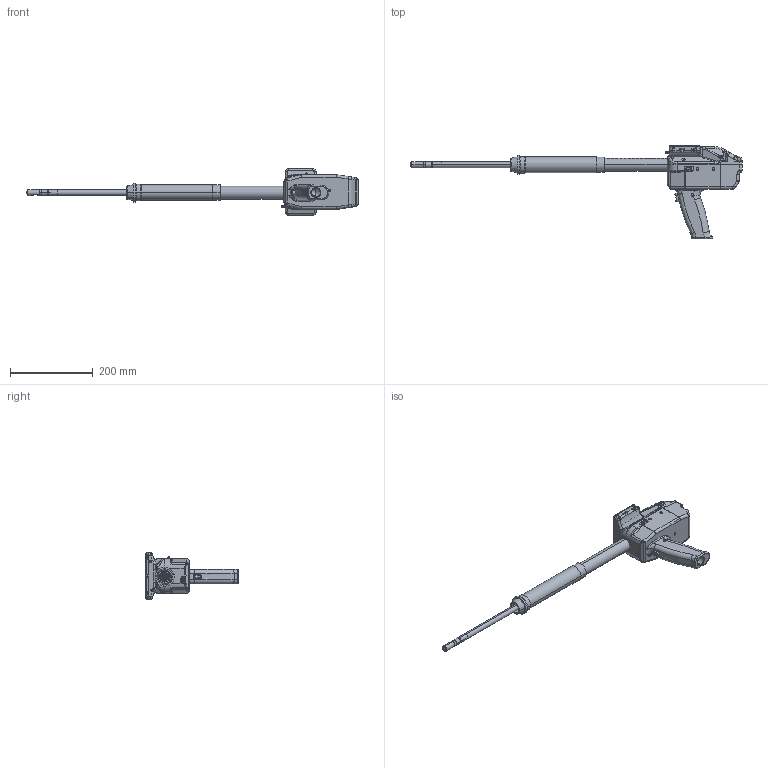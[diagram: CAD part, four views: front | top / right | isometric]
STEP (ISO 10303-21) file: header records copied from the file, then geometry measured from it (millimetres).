
FILE_DESCRIPTION (( 'STEP AP203' ), '1' );
FILE_NAME ('ﾐﾔ 409.00.000_ﾑﾁ Rio Tinto ﾂﾀﾐﾈﾀﾍﾒ 4 DEMO.STEP', '2021-03-22T08:32:57', ( 'user' ), ( 'Ref' ), 'SwSTEP 2.0', 'SolidWorks 2015', '' );
FILE_SCHEMA (( 'CONFIG_CONTROL_DESIGN' ));
Length unit declared in the file: millimetre
Products named in the file (35): Ýêðàí; 俶 607.12R.000_捘; Ïëàòà çàðÿäíèêà ÏÐÏ USB new ÑÁ; ÐÔ 410.00.000 Ðàìêà ÓÖÈ; Ïëàòà áåç ðàçúåìîâ íàóøíèêîâ è êàìåðû; Âèíò_Ì2õ14; Âèíò_Ì3x12 â ïîòàé; 俶 410.00.000_扱闀罻; USB_ìàë; ÐÔ 409.00.000_Òðóáà âíåøíÿÿ âàðèàíò 4_2; Øàéáà ïðóæèííàÿ_3; 俶 409.00.000_鎗鵻罻; Ïëàòà ÑÁ(áåç ðàçúåìîâ); ﾐﾔ 409.00.000_ﾒ矜 粹澵 ﾂ瑩鞨炅 4; ÐÔ 409.00.000_Òðóáà âíåøíÿÿ âàðèàíò 4_1; 俶 409.00.000_櫻謷飶罻 4; SC766; Êðûøêà âåðõíÿÿ; ÐÔ 409.00.000_Øòàíãà äàò÷èêà Âàðèàíò 4; ﾐﾔ 409.00.000_ﾑﾁ Rio Tinto ﾂﾀﾐﾈﾀﾍﾒ 4  DEMO; ÐÔ 607.05.00õ_Îêíî Ïðè¸ì; 俶 095.60.00_栱殣鍒鍱; Ýêðàí 4.3; ÐÔ 409.00.000_Êîðïóñ Âàðèàíò 4; ÐÔ 607.12R.000_Êîðïóñ äàò÷èêà; ÐÔ 409.00.000_Êðûøêà áàò îòñåêà 4; 扱闀罻 2; ÐÔ 409.00.000_Êðûøêà Âàðèàíò 4 ; ÐÔ 607.12R.000_Êîëïàê äàò÷èêà; Ñòèëóñ (ìåòàëëè÷åñêàÿ ÷àñòü); Ïëàòà 111; Âèíò_Ì3õ20; S10227-10; USB_ìàë ïðîôèëîìåòðà; 栖闉罻22
Assembly tree (51 placements, depth 4):
  ﾐﾔ 409.00.000_ﾑﾁ Rio Tinto ﾂﾀﾐﾈﾀﾍﾒ 4  DEMO
    ﾐﾔ 409.00.000_ﾒ矜 粹澵 ﾂ瑩鞨炅 4
    ÐÔ 409.00.000_Øòàíãà äàò÷èêà Âàðèàíò 4
    ÐÔ 409.00.000_Êîðïóñ Âàðèàíò 4
    ÐÔ 409.00.000_Êðûøêà Âàðèàíò 4 
    Âèíò_Ì3õ20  x11
    栖闉罻22
      Ýêðàí
      Ïëàòà ÑÁ(áåç ðàçúåìîâ)
        Ïëàòà áåç ðàçúåìîâ íàóøíèêîâ è êàìåðû
        USB_ìàë
      Êðûøêà âåðõíÿÿ
      Ýêðàí 4.3
      扱闀罻 2
      Ïëàòà 111
    ÐÔ 410.00.000 Ðàìêà ÓÖÈ
    俶 410.00.000_扱闀罻
    俶 409.00.000_鎗鵻罻
    SC766
    俶 095.60.00_栱殣鍒鍱
    ÐÔ 409.00.000_Êðûøêà áàò îòñåêà 4
    Ñòèëóñ (ìåòàëëè÷åñêàÿ ÷àñòü)
    Ïëàòà çàðÿäíèêà ÏÐÏ USB new ÑÁ
      USB_ìàë ïðîôèëîìåòðà
    Âèíò_Ì3x12 â ïîòàé  x6
    Øàéáà ïðóæèííàÿ_3  x2
    俶 409.00.000_櫻謷飶罻 4
    俶 607.12R.000_捘
      ÐÔ 607.05.00õ_Îêíî Ïðè¸ì
      ÐÔ 607.12R.000_Êîðïóñ äàò÷èêà
      ÐÔ 607.12R.000_Êîëïàê äàò÷èêà
      S10227-10
    Âèíò_Ì2õ14  x2
    ÐÔ 409.00.000_Òðóáà âíåøíÿÿ âàðèàíò 4_2
    ÐÔ 409.00.000_Òðóáà âíåøíÿÿ âàðèàíò 4_1
Bounding box: 800.5 x 226.33 x 112.5 mm (x, y, z)
Volume: 1013315.4 mm3; surface area: 434555.6 mm2
Topology: 51 solids, 51 shells, 3714 faces, 9027 edges, 5640 vertices
Faces by surface type: plane 1821, cylinder 968, cone 485, bspline 359, torus 65, sphere 16
Entity records: 123540 total; most frequent: CARTESIAN_POINT 41022, ORIENTED_EDGE 16682, DIRECTION 15498, EDGE_CURVE 8341, AXIS2_PLACEMENT_3D 5359, VERTEX_POINT 5258, VECTOR 4780, LINE 4780
